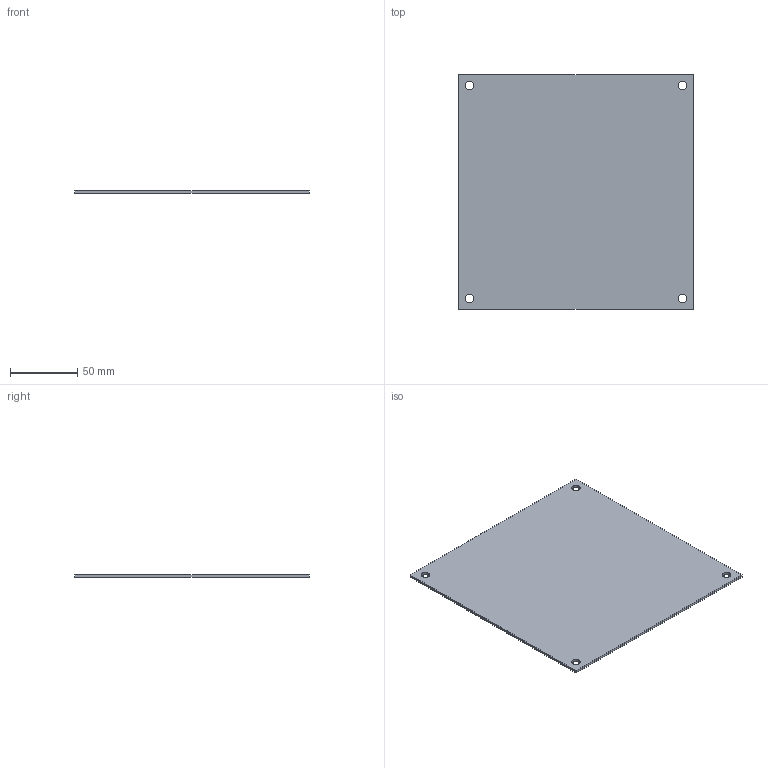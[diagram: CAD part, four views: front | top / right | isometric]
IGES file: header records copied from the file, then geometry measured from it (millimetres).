
Start section: SolidWorks IGES file using analytic representation for surfaces
Global section: file name: G:\3DRAW\ARCA\3DCAM\Solidpart\FIBOX_ABP88.IGS; native system: SolidWorks 2009; preprocessor: SolidWorks 2009; author: KennethW; date: 100308.095028; units: millimetre
Bounding box: 175 x 175 x 2 mm (x, y, z)
Surface area: 62556.2 mm2 (no closed solid volume)
Topology: 0 solids, 0 shells, 14 faces, 312 edges, 312 vertices
Faces by surface type: revolution 8, bspline 6
